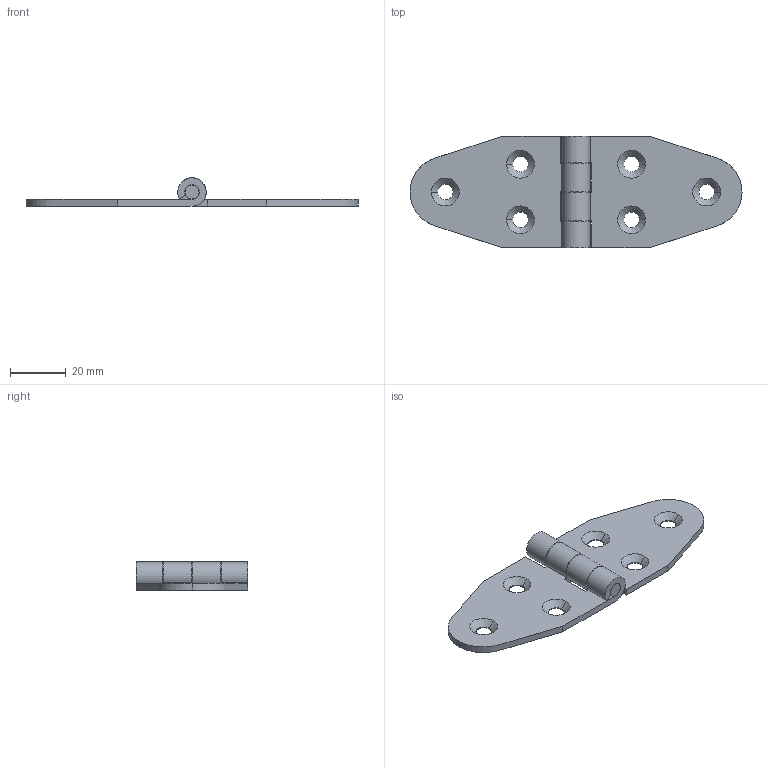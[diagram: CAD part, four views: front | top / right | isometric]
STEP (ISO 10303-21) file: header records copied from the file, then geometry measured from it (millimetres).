
FILE_DESCRIPTION(/* description */ (''),/* implementation_level */ '2;1');
FILE_NAME(/* name */ 'JL238 2',/* time_stamp */ '2024-09-18T11:55:29+08:00',/* author */ (''),/* organization */ (''),/* preprocessor_version */ 'ST-DEVELOPER v19.2',/* originating_system */ 'Rhino 8.5',/* authorisation */ '');
FILE_SCHEMA (('CONFIG_CONTROL_DESIGN'));
Length unit declared in the file: millimetre
Products named in the file (1): Document
Bounding box: 119.4 x 40 x 10.2 mm (x, y, z)
Volume: 11508.8 mm3; surface area: 11014.2 mm2
Topology: 3 solids, 3 shells, 62 faces, 156 edges, 100 vertices
Faces by surface type: plane 24, cylinder 22, bspline 16
Entity records: 2184 total; most frequent: CARTESIAN_POINT 841, ORIENTED_EDGE 312, DIRECTION 159, EDGE_CURVE 156, AXIS2_PLACEMENT_3D 101, VERTEX_POINT 100, EDGE_LOOP 74, ADVANCED_FACE 62
